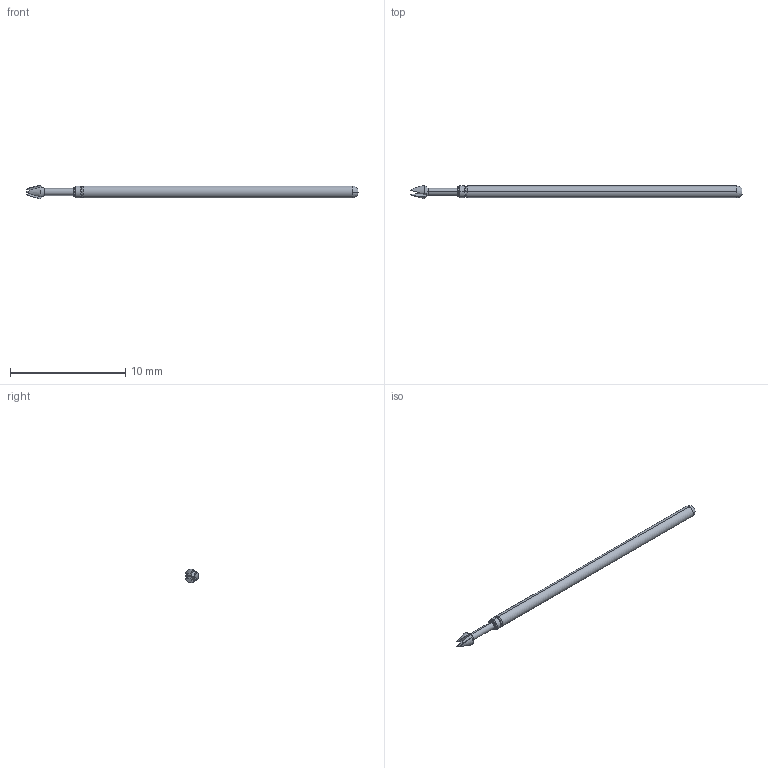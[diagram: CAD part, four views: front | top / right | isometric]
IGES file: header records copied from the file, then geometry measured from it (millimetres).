
Start section: SolidWorks IGES file using analytic representation for surfaces
Global section: file name: Z:\probe solid model mockups\Solidworks models\Parts\LFRE-1UN RECD.IGS; native system: SolidWorks 2016; preprocessor: SolidWorks 2016; author: mlee; date: 180927.164129; units: inch
Bounding box: 28.76 x 1.17 x 1.19 mm (x, y, z)
Surface area: 89.5 mm2 (no closed solid volume)
Topology: 0 solids, 0 shells, 40 faces, 249 edges, 249 vertices
Faces by surface type: revolution 22, bspline 18
